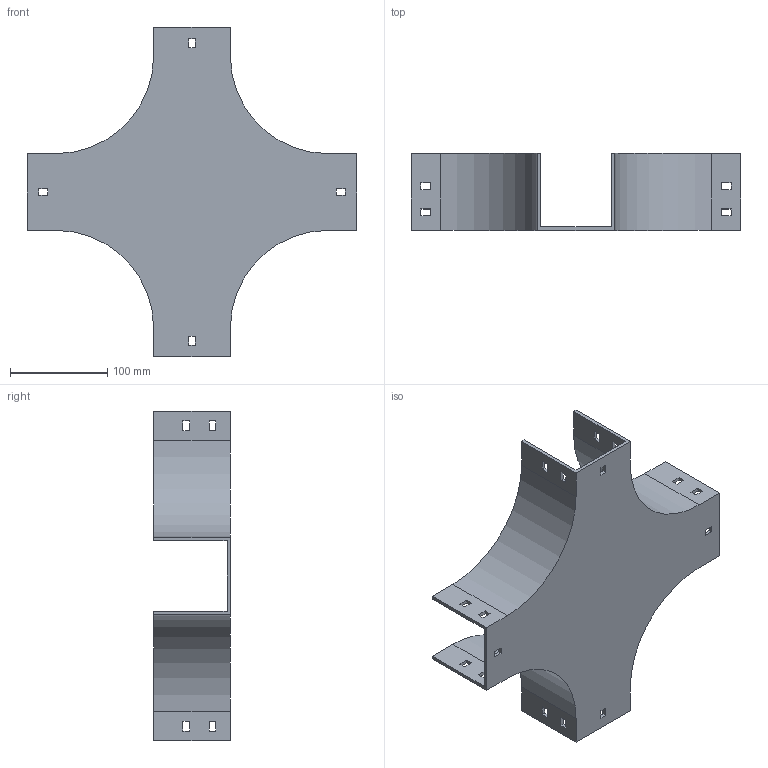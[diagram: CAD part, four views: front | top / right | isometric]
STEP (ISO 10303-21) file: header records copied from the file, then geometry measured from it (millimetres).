
FILE_DESCRIPTION (( 'STEP AP214' ), '1' );
FILE_NAME ('17F1C075.step', '2025-02-21T13:06:02', ( '' ), ( '' ), 'SwSTEP 2.0', 'SolidWorks 2023', '' );
FILE_SCHEMA (( 'AUTOMOTIVE_DESIGN' ));
Length unit declared in the file: millimetre
Products named in the file (1): 17F1C075
Bounding box: 339 x 79 x 339 mm (x, y, z)
Volume: 423287.5 mm3; surface area: 250475.7 mm2
Topology: 1 solids, 1 shells, 114 faces, 336 edges, 224 vertices
Faces by surface type: plane 106, cylinder 8
Entity records: 3839 total; most frequent: CARTESIAN_POINT 675, ORIENTED_EDGE 672, DIRECTION 582, EDGE_CURVE 336, LINE 320, VECTOR 320, VERTEX_POINT 224, EDGE_LOOP 154
